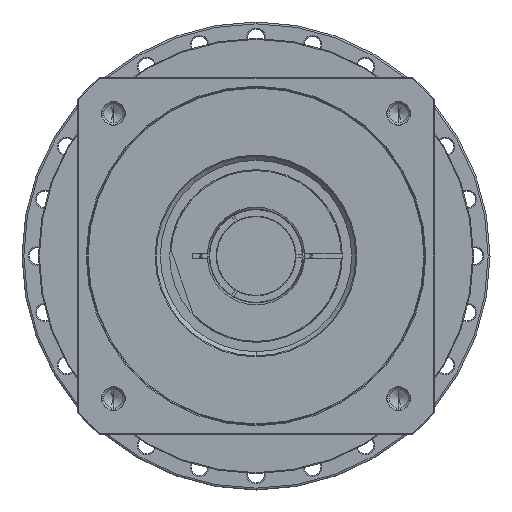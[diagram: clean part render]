
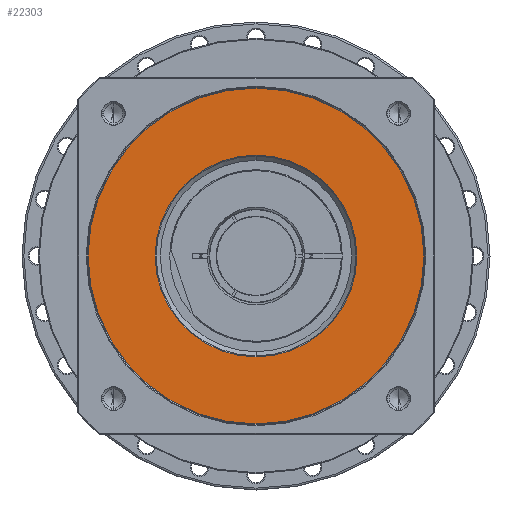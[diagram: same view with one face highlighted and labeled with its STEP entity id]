
A CAD part, left-side view. The second image highlights one B-rep face of the part: STEP entity #22303.
In plain terms, the highlighted planar face has unit normal (-1, 0, 0) as drawn and (0, 0, 1) by its records, which use the part's own axes.
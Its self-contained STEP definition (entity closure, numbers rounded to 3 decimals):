
#20988=CARTESIAN_POINT('',(0.,0.,36.));
#20989=DIRECTION('',(0.,0.,-1.));
#20990=DIRECTION('',(0.,-1.,0.));
#20991=AXIS2_PLACEMENT_3D('',#20988,#20989,#20990);
#20993=CARTESIAN_POINT('',(0.,0.,36.));
#20994=DIRECTION('',(0.,0.,-1.));
#20995=DIRECTION('',(0.,1.,0.));
#20996=AXIS2_PLACEMENT_3D('',#20993,#20994,#20995);
#20998=CARTESIAN_POINT('',(0.,0.,
36.));
#20999=DIRECTION('',(0.,0.,-1.));
#21000=DIRECTION('',(1.,0.,0.));
#21001=AXIS2_PLACEMENT_3D('',#20998,#20999,#21000);
#21003=CARTESIAN_POINT('',(0.,0.,36.));
#21004=DIRECTION('',(0.,0.,-1.));
#21005=DIRECTION('',(-1.,0.,0.));
#21006=AXIS2_PLACEMENT_3D('',#21003,#21004,#21005);
#21587=CARTESIAN_POINT('',(0.,-89.5,36.));
#21588=CARTESIAN_POINT('',(0.,89.5,36.));
#21589=VERTEX_POINT('',#21587);
#21590=VERTEX_POINT('',#21588);
#21623=CARTESIAN_POINT('',(53.75,0.,36.));
#21624=CARTESIAN_POINT('',(-53.75,0.,
36.));
#21625=VERTEX_POINT('',#21623);
#21626=VERTEX_POINT('',#21624);
#22287=CARTESIAN_POINT('',(0.,0.,36.));
#22288=DIRECTION('',(0.,0.,-1.));
#22289=DIRECTION('',(0.,-1.,0.));
#22290=AXIS2_PLACEMENT_3D('',#22287,#22288,#22289);
#22291=PLANE('',#22290);
#22293=ORIENTED_EDGE('',*,*,#22292,.T.);
#22294=ORIENTED_EDGE('',*,*,#22277,.T.);
#22295=EDGE_LOOP('',(#22293,#22294));
#22296=FACE_OUTER_BOUND('',#22295,.F.);
#22298=ORIENTED_EDGE('',*,*,#22297,.F.);
#22300=ORIENTED_EDGE('',*,*,#22299,.F.);
#22301=EDGE_LOOP('',(#22298,#22300));
#22302=FACE_BOUND('',#22301,.F.);
#22303=ADVANCED_FACE('',(#22296,#22302),#22291,.F.);
#20992=CIRCLE('',#20991,89.5);
#20997=CIRCLE('',#20996,89.5);
#21002=CIRCLE('',#21001,53.75);
#21007=CIRCLE('',#21006,53.75);
#22277=EDGE_CURVE('',#21590,#21589,#20997,.T.);
#22292=EDGE_CURVE('',#21589,#21590,#20992,.T.);
#22297=EDGE_CURVE('',#21625,#21626,#21002,.T.);
#22299=EDGE_CURVE('',#21626,#21625,#21007,.T.);
